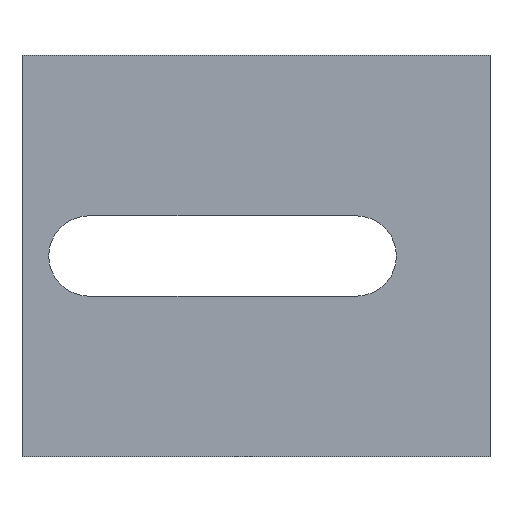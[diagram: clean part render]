
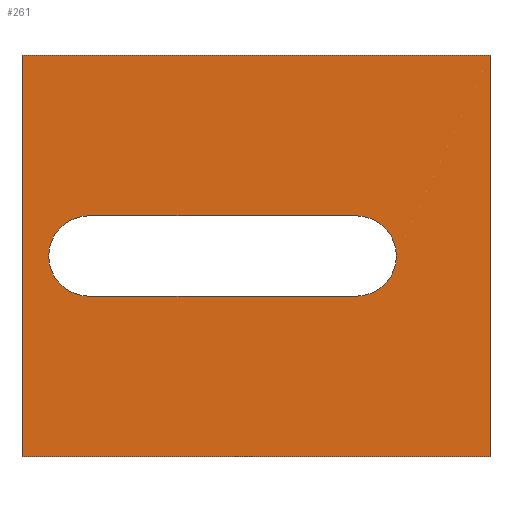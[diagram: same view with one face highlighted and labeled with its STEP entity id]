
A CAD part, front view. The second image highlights one B-rep face of the part: STEP entity #261.
In plain terms, the highlighted planar face has unit normal (0, -1, 0).
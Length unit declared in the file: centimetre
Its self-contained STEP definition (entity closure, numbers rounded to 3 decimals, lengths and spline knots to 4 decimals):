
#43=FACE_BOUND('',#79,.T.);
#53=PLANE('',#300);
#65=FACE_OUTER_BOUND('',#78,.T.);
#78=EDGE_LOOP('',(#240,#241,#242,#243));
#79=EDGE_LOOP('',(#244,#245,#246,#247));
#83=LINE('',#381,#109);
#87=LINE('',#391,#113);
#92=LINE('',#404,#118);
#98=LINE('',#416,#124);
#102=LINE('',#423,#128);
#104=LINE('',#426,#130);
#109=VECTOR('',#316,1.);
#113=VECTOR('',#328,1.);
#118=VECTOR('',#337,1.);
#124=VECTOR('',#347,1.);
#128=VECTOR('',#353,1.);
#130=VECTOR('',#357,1.);
#133=CIRCLE('',#287,0.3);
#135=CIRCLE('',#291,0.3);
#140=VERTEX_POINT('',#372);
#141=VERTEX_POINT('',#374);
#143=VERTEX_POINT('',#380);
#145=VERTEX_POINT('',#386);
#150=VERTEX_POINT('',#402);
#151=VERTEX_POINT('',#403);
#154=VERTEX_POINT('',#414);
#155=VERTEX_POINT('',#415);
#160=EDGE_CURVE('',#141,#140,#133,.T.);
#163=EDGE_CURVE('',#143,#141,#83,.T.);
#166=EDGE_CURVE('',#145,#143,#135,.T.);
#169=EDGE_CURVE('',#140,#145,#87,.T.);
#174=EDGE_CURVE('',#150,#151,#92,.T.);
#180=EDGE_CURVE('',#154,#155,#98,.T.);
#184=EDGE_CURVE('',#151,#154,#102,.T.);
#186=EDGE_CURVE('',#155,#150,#104,.T.);
#240=ORIENTED_EDGE('',*,*,#186,.F.);
#241=ORIENTED_EDGE('',*,*,#180,.F.);
#242=ORIENTED_EDGE('',*,*,#184,.F.);
#243=ORIENTED_EDGE('',*,*,#174,.F.);
#244=ORIENTED_EDGE('',*,*,#166,.T.);
#245=ORIENTED_EDGE('',*,*,#163,.T.);
#246=ORIENTED_EDGE('',*,*,#160,.T.);
#247=ORIENTED_EDGE('',*,*,#169,.T.);
#261=ADVANCED_FACE('',(#65,#43),#53,.F.);
#287=AXIS2_PLACEMENT_3D('',#375,#310,#311);
#291=AXIS2_PLACEMENT_3D('',#387,#322,#323);
#300=AXIS2_PLACEMENT_3D('',#429,#361,#362);
#310=DIRECTION('center_axis',(0.,1.,0.));
#311=DIRECTION('ref_axis',(-1.,0.,0.));
#316=DIRECTION('',(1.,0.,0.));
#322=DIRECTION('center_axis',(0.,1.,0.));
#323=DIRECTION('ref_axis',(-1.,0.,0.));
#328=DIRECTION('',(-1.,0.,0.));
#337=DIRECTION('',(0.,0.,-1.));
#347=DIRECTION('',(0.,0.,1.));
#353=DIRECTION('',(-1.,0.,0.));
#357=DIRECTION('',(1.,0.,0.));
#361=DIRECTION('center_axis',(0.,1.,0.));
#362=DIRECTION('ref_axis',(0.,0.,1.));
#372=CARTESIAN_POINT('',(0.75,0.,-0.3));
#374=CARTESIAN_POINT('',(0.75,0.,0.3));
#375=CARTESIAN_POINT('Origin',(0.75,0.,0.));
#380=CARTESIAN_POINT('',(-1.25,0.,0.3));
#381=CARTESIAN_POINT('',(-0.75,0.,0.3));
#386=CARTESIAN_POINT('',(-1.25,0.,-0.3));
#387=CARTESIAN_POINT('Origin',(-1.25,0.,0.));
#391=CARTESIAN_POINT('',(0.25,0.,-0.3));
#402=CARTESIAN_POINT('',(1.75,0.,1.5));
#403=CARTESIAN_POINT('',(1.75,0.,-1.5));
#404=CARTESIAN_POINT('',(1.75,0.,1.5));
#414=CARTESIAN_POINT('',(-1.75,0.,-1.5));
#415=CARTESIAN_POINT('',(-1.75,0.,1.5));
#416=CARTESIAN_POINT('',(-1.75,0.,-1.5));
#423=CARTESIAN_POINT('',(1.75,0.,-1.5));
#426=CARTESIAN_POINT('',(-1.75,0.,1.5));
#429=CARTESIAN_POINT('Origin',(-0.25,0.,0.));
